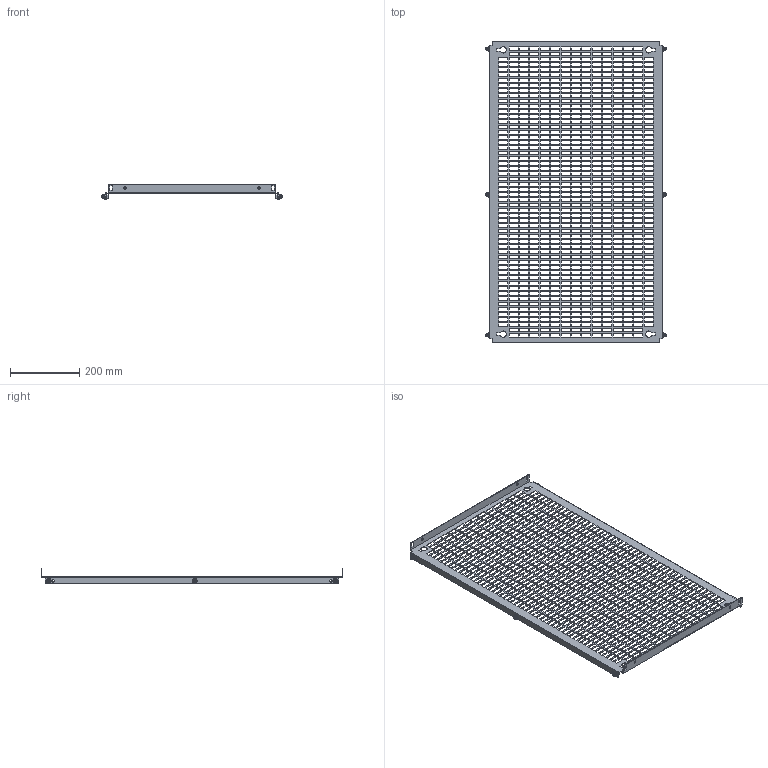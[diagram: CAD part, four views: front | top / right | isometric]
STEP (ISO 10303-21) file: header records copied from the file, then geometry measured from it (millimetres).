
FILE_DESCRIPTION(('Open CASCADE Model'),'2;1');
FILE_NAME('Open CASCADE Shape Model','2025-02-19T16:51:02',('Author'),( 'Open CASCADE'),'Open CASCADE STEP processor 7.8','Open CASCADE 7.8' ,'Unknown');
FILE_SCHEMA(('AUTOMOTIVE_DESIGN { 1 0 10303 214 1 1 1 1 }'));
Length unit declared in the file: millimetre
Products named in the file (4): Compound1; Solid1; Solid2; Solid3
Assembly tree (13 placements, depth 2):
  Compound1
    Solid1
    Solid2  x6
    Solid3  x6
Bounding box: 520 x 869 x 43 mm (x, y, z)
Volume: 500756.3 mm3; surface area: 630009.3 mm2
Topology: 13 solids, 13 shells, 3724 faces, 10915 edges, 7223 vertices
Faces by surface type: plane 3496, cone 102, bspline 72, cylinder 36, torus 18
Full cylindrical faces by diameter (mm): 5 x6, 6 x12, 7 x14
Entity records: 117974 total; most frequent: CARTESIAN_POINT 21315, ORIENTED_EDGE 20700, DIRECTION 17270, EDGE_CURVE 10350, LINE 10192, VECTOR 10192, VERTEX_POINT 6893, FACE_BOUND 5175
